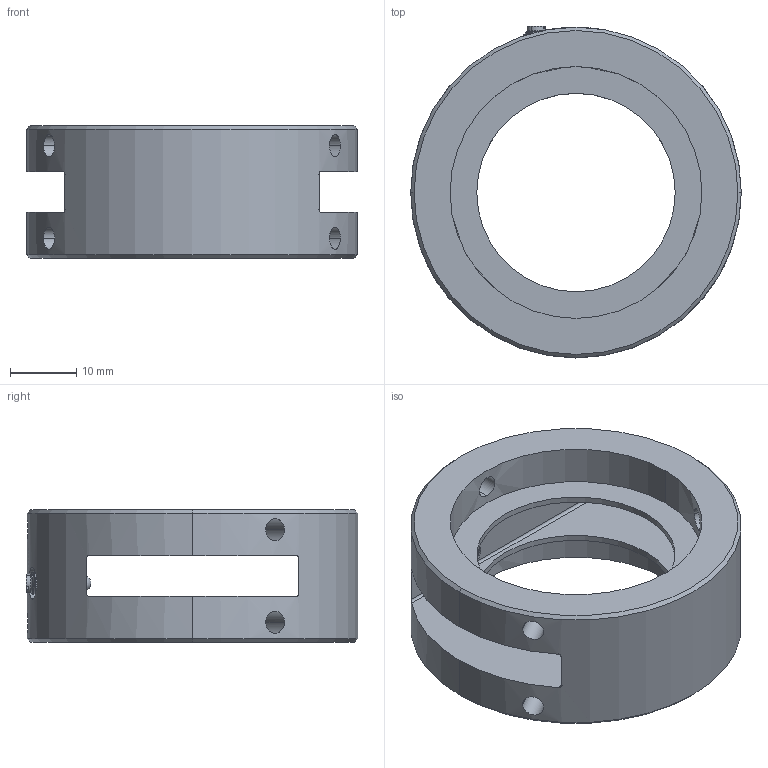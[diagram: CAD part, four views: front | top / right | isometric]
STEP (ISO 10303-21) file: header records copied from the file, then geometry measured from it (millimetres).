
FILE_DESCRIPTION (( 'STEP AP214' ), '1' );
FILE_NAME ('C60-SLDR-TUBE (CATALOG MODEL).STEP', '2025-07-09T18:59:22', ( '' ), ( '' ), 'SwSTEP 2.0', 'SolidWorks 2023', '' );
FILE_SCHEMA (( 'AUTOMOTIVE_DESIGN' ));
Length unit declared in the file: inch
Products named in the file (1): C60-SLDR-TUBE (CATALOG MODEL)
Bounding box: 50 x 50.19 x 20 mm (x, y, z)
Volume: 14758.4 mm3; surface area: 9347.6 mm2
Topology: 4 solids, 4 shells, 118 faces, 331 edges, 216 vertices
Faces by surface type: cylinder 59, plane 24, bspline 22, cone 11, sphere 2
Entity records: 8820 total; most frequent: CARTESIAN_POINT 5470, ORIENTED_EDGE 648, DIRECTION 420, EDGE_CURVE 324, VERTEX_POINT 213, AXIS2_PLACEMENT_3D 162, EDGE_LOOP 139, B_SPLINE_CURVE_WITH_KNOTS 121
